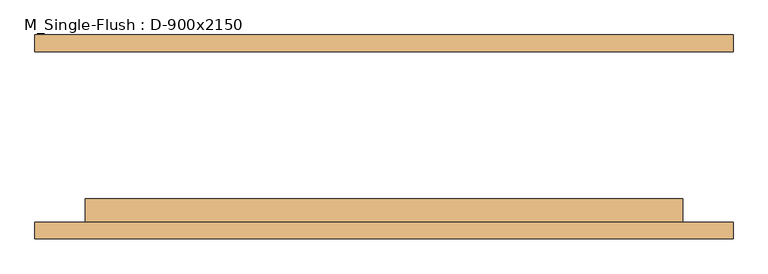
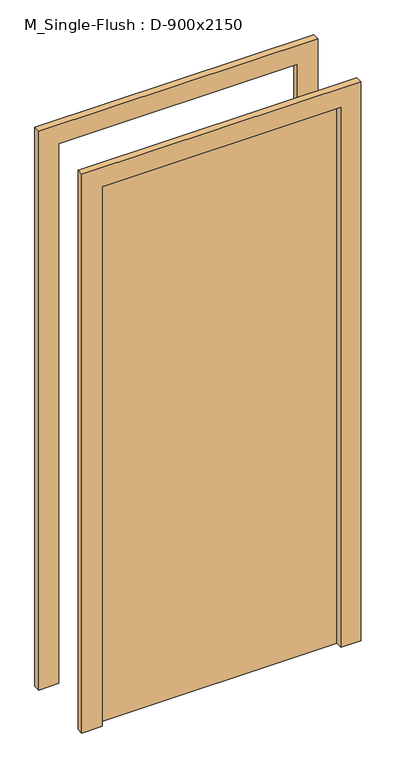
"""IFC4 building model written with IfcOpenShell, lengths in millimetres: door geometry, M_Single-Flush : D-900x2150."""

import ifcopenshell
import ifcopenshell.guid

model = None  # the IFC model being written
_history = None  # IfcOwnerHistory: only IFC2X3 demands one
_inside = {}  # id of a spatial element -> (the spatial element, [elements in it])
_under = {}  # id of a project, library or spatial element -> (it, [spatial elements below it])
_declared = {}  # id of a project -> (the project, [libraries it declares])
_typed = {}  # id of a type object -> (the type object, [elements of that type])
_made_of = {}  # id of a material, layer set ... -> (it, [elements and type objects made of it])


def new_model(schema):
    """Start an empty IFC model of exactly this schema.

    Asked for "IFC4X3", IfcOpenShell would pick the latest addendum, in which some entities
    have other attributes; the version numbers below select the first issue.
    IFC2X3 requires an IfcOwnerHistory on every rooted entity: one is made here for all.
    """
    global model, _history
    if schema == "IFC4X3":
        model = ifcopenshell.file(schema_version=(4, 3, 0, 0))
    else:
        model = ifcopenshell.file(schema=schema)
    _inside.clear()
    _under.clear()
    _declared.clear()
    _typed.clear()
    _made_of.clear()
    _history = None
    if model.schema == "IFC2X3":
        org = make("IfcOrganization", Name="unknown")
        user = make(
            "IfcPersonAndOrganization",
            ThePerson=make("IfcPerson", FamilyName="unknown"),
            TheOrganization=org,
        )
        app = make(
            "IfcApplication",
            ApplicationDeveloper=org,
            Version="unknown",
            ApplicationFullName="unknown",
            ApplicationIdentifier="unknown",
        )
        _history = make(
            "IfcOwnerHistory",
            OwningUser=user,
            OwningApplication=app,
            ChangeAction="ADDED",
            CreationDate=0,
        )
    return model


def make(cls, **values):
    """One entity of the class cls with the attributes given. An attribute that is None is left unset."""
    return model.create_entity(
        cls, **{name: value for name, value in values.items() if value is not None}
    )


def rooted(cls, **values):
    """An entity with a GlobalId (a new one), such as an element, a storey or a relation."""
    return make(cls, GlobalId=ifcopenshell.guid.new(), OwnerHistory=_history, **values)


def si_unit(unit_type, name, prefix=None):
    """IfcSIUnit, for example si_unit("LENGTHUNIT", "METRE", prefix="MILLI")."""
    return make("IfcSIUnit", UnitType=unit_type, Prefix=prefix, Name=name)


def assignment(units):
    """IfcUnitAssignment: the units of a project."""
    return None if units is None else make("IfcUnitAssignment", Units=units)


def point(xyz):
    """IfcCartesianPoint."""
    return None if xyz is None else make("IfcCartesianPoint", Coordinates=xyz)


def direction(xyz):
    """IfcDirection."""
    return None if xyz is None else make("IfcDirection", DirectionRatios=xyz)


def frame(location, z_axis=None, x_axis=None):
    """IfcAxis2Placement3D, a coordinate frame: its origin and axes. An axis left out is left unset."""
    return make(
        "IfcAxis2Placement3D",
        Location=point(location),
        Axis=direction(z_axis),
        RefDirection=direction(x_axis),
    )


def origin():
    """The frame at (0, 0, 0) with its axes left unset."""
    return frame((0.0, 0.0, 0.0))


def origin_with_axes():
    """The frame at (0, 0, 0) with the z axis (0, 0, 1) and the x axis (1, 0, 0) written out."""
    return frame((0.0, 0.0, 0.0), z_axis=(0.0, 0.0, 1.0), x_axis=(1.0, 0.0, 0.0))


def place(relative_to, where):
    """IfcLocalPlacement: puts the frame where relative to a parent placement (None: the world)."""
    return make(
        "IfcLocalPlacement", PlacementRelTo=relative_to, RelativePlacement=where
    )


def context(
    kind, dimensions, precision=None, world=None, true_north=None, identifier=None
):
    """IfcGeometricRepresentationContext, for example the 3D "Model" context."""
    return make(
        "IfcGeometricRepresentationContext",
        ContextIdentifier=identifier,
        ContextType=kind,
        CoordinateSpaceDimension=dimensions,
        Precision=precision,
        WorldCoordinateSystem=world,
        TrueNorth=true_north,
    )


def project(units=None, contexts=None):
    """IfcProject with its units and contexts."""
    return rooted(
        "IfcProject",
        Name="project",
        RepresentationContexts=contexts,
        UnitsInContext=assignment(units),
    )


def spatial(cls, under=None, at=None, **own):
    """A site, building, storey or space (cls), placed at a placement, below another one or the project."""
    s = rooted(cls, ObjectPlacement=at, **own)
    if under is not None:
        _under.setdefault(under.id(), (under, []))[1].append(s)
    return s


def polyline(points):
    """IfcPolyline through the points."""
    return make("IfcPolyline", Points=[point(p) for p in points])


def outline(outer, holes=None, kind="AREA"):
    """IfcArbitraryClosedProfileDef: a profile drawn as a closed curve; with holes, ...WithVoids."""
    if holes is None:
        return make("IfcArbitraryClosedProfileDef", ProfileType=kind, OuterCurve=outer)
    return make(
        "IfcArbitraryProfileDefWithVoids",
        ProfileType=kind,
        OuterCurve=outer,
        InnerCurves=holes,
    )


def extrude(swept, where, along, depth):
    """IfcExtrudedAreaSolid: the profile swept, set in the frame where, extruded along a direction by depth."""
    return make(
        "IfcExtrudedAreaSolid",
        SweptArea=swept,
        Position=where,
        ExtrudedDirection=direction(along),
        Depth=depth,
    )


def shape(context_of_items, identifier, shape_type, items):
    """IfcShapeRepresentation: the items that make up one representation, for example the "Body"."""
    return make(
        "IfcShapeRepresentation",
        ContextOfItems=context_of_items,
        RepresentationIdentifier=identifier,
        RepresentationType=shape_type,
        Items=items,
    )


def source(mapping_origin, context_of_items, identifier, shape_type, items):
    """IfcRepresentationMap: a shape defined once, which mapped items show again and again."""
    return make(
        "IfcRepresentationMap",
        MappingOrigin=mapping_origin,
        MappedRepresentation=shape(context_of_items, identifier, shape_type, items),
    )


def transform(
    local_origin,
    x_axis=None,
    y_axis=None,
    z_axis=None,
    scale=None,
    scale2=None,
    scale3=None,
    uniform=True,
):
    """IfcCartesianTransformationOperator3D, or its non-uniform kind. x_axis, y_axis, z_axis: its Axis1, 2, 3."""
    if uniform:
        return make(
            "IfcCartesianTransformationOperator3D",
            Axis1=direction(x_axis),
            Axis2=direction(y_axis),
            LocalOrigin=point(local_origin),
            Scale=scale,
            Axis3=direction(z_axis),
        )
    return make(
        "IfcCartesianTransformationOperator3DnonUniform",
        Axis1=direction(x_axis),
        Axis2=direction(y_axis),
        LocalOrigin=point(local_origin),
        Scale=scale,
        Axis3=direction(z_axis),
        Scale2=scale2,
        Scale3=scale3,
    )


def mapped(mapping_source, mapping_target):
    """IfcMappedItem: shows the shape of a source again, moved by a transform."""
    return make(
        "IfcMappedItem", MappingSource=mapping_source, MappingTarget=mapping_target
    )


def made_of(thing, what):
    """Note that an element or type object is made of a material, layer set ...; save() writes the relation."""
    if what is not None:
        _made_of.setdefault(what.id(), (what, []))[1].append(thing)
    return thing


def element(
    cls,
    number,
    at=None,
    inside=None,
    cuts=None,
    type_object=None,
    material=None,
    context=None,
    identifier="Body",
    shape_type=None,
    held_by="IfcProductDefinitionShape",
    body=None,
    shapes=None,
    **own,
):
    """One element of the class cls, such as IfcWall. Its Tag is "e" and its number.

    at: its placement. inside: the storey or other place that contains it. cuts: it is an
    opening in that element (IfcRelVoidsElement). A single representation is given by context,
    identifier, shape_type and body (its items); several are given by shapes. held_by: the class
    of the entity that holds the representations. save() writes the other relations.
    """
    e = rooted(cls, Tag="e%d" % number, ObjectPlacement=at, **own)
    if body is not None:
        shapes = [shape(context, identifier, shape_type, body)]
    if shapes is not None:
        e.Representation = make(held_by, Representations=shapes)
    if inside is not None:
        _inside.setdefault(inside.id(), (inside, []))[1].append(e)
    if cuts is not None:
        rooted(
            "IfcRelVoidsElement", RelatingBuildingElement=cuts, RelatedOpeningElement=e
        )
    if type_object is not None:
        _typed.setdefault(type_object.id(), (type_object, []))[1].append(e)
    return made_of(e, material)


def aggregate(whole, parts):
    """IfcRelAggregates: a whole, such as a stair, and the parts it consists of."""
    return rooted("IfcRelAggregates", RelatingObject=whole, RelatedObjects=parts)


def save(model, path):
    """Write the relations noted so far, then the file.

    IfcRelAggregates (storeys below a building ...), IfcRelContainedInSpatialStructure (elements
    in a storey), IfcRelDefinesByType, IfcRelAssociatesMaterial and IfcRelDeclares: one each for
    every whole, place, type object, material and project.
    """
    for whole, parts in _under.values():
        aggregate(whole, parts)
    for where, things in _inside.values():
        rooted(
            "IfcRelContainedInSpatialStructure",
            RelatedElements=things,
            RelatingStructure=where,
        )
    for kind, things in _typed.values():
        rooted("IfcRelDefinesByType", RelatedObjects=things, RelatingType=kind)
    for what, things in _made_of.values():
        rooted("IfcRelAssociatesMaterial", RelatedObjects=things, RelatingMaterial=what)
    for by, libraries in _declared.values():
        rooted("IfcRelDeclares", RelatingContext=by, RelatedDefinitions=libraries)
    model.write(path)


def m_single_flush_d_900x2150_afd04a23(model_context):
    return source(origin(), model_context, "Body", "SweptSolid", [
        extrude(outline(polyline([(2226.0, -526.0), (0.0, -526.0), (0.0, -450.0), (2150.0, -450.0), (2150.0, 450.0), (0.0, 450.0), (0.0, 526.0), (2226.0, 526.0), (2226.0, -526.0)])), frame((0.0, -153.5, 0.0), z_axis=(0.0, 1.0, 0.0), x_axis=(0.0, 0.0, 1.0)), (0.0, 0.0, 1.0), 25.0),
        extrude(outline(polyline([(2226.0, 526.0), (2226.0, -526.0), (0.0, -526.0), (0.0, -450.0), (2150.0, -450.0), (2150.0, 450.0), (0.0, 450.0), (0.0, 526.0), (2226.0, 526.0)])), frame((0.0, 128.5, 0.0), z_axis=(0.0, 1.0, 0.0), x_axis=(0.0, 0.0, 1.0)), (0.0, 0.0, 1.0), 25.0),
        extrude(outline(polyline([(450.0, -93.5), (450.0, -128.5), (-450.0, -128.5), (-450.0, -93.5), (450.0, -93.5)])), origin_with_axes(), (0.0, 0.0, 1.0), 2150.0),
    ])


if __name__ == "__main__":
    model = new_model("IFC4")
    model_context = context("Model", 3, world=origin())
    ifc_project = project(units=[si_unit("LENGTHUNIT", "METRE", prefix="MILLI")], contexts=[model_context])
    site = spatial("IfcSite", under=ifc_project)
    building = spatial("IfcBuilding", under=site)
    placement = place(None, origin())
    m_single_flush_d_900x2150_shape = m_single_flush_d_900x2150_afd04a23(model_context)
    element("IfcDoor", 1, ObjectType="M_Single-Flush : D-900x2150", at=placement, inside=building, context=model_context, shape_type="MappedRepresentation", body=[
        mapped(m_single_flush_d_900x2150_shape, transform((0.0, 0.0, 0.0), x_axis=(1.0, 0.0, 0.0), y_axis=(0.0, 1.0, 0.0), z_axis=(0.0, 0.0, 1.0))),
    ])
    save(model, "model.ifc")
